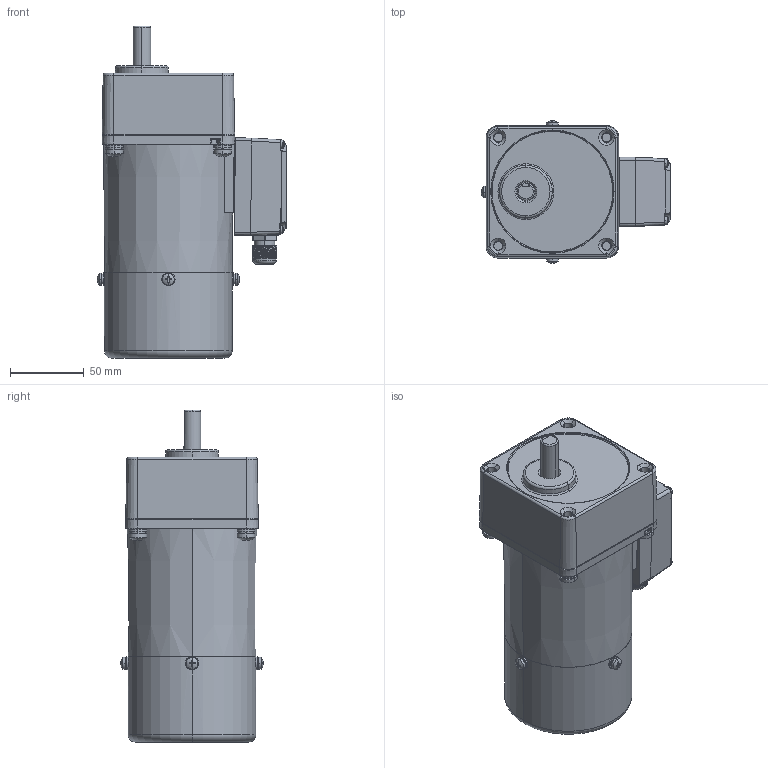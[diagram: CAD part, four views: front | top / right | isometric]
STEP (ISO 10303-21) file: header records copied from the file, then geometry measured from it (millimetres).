
FILE_DESCRIPTION (( 'STEP AP203' ), '1' );
FILE_NAME ('5RK40GN-CMT(5GN3K-18K).STEP', '2023-08-08T05:27:41', ( 'Windows User' ), ( 'P R C' ), 'SwSTEP 2.0', 'SolidWorks 2019', '' );
FILE_SCHEMA (( 'CONFIG_CONTROL_DESIGN' ));
Length unit declared in the file: millimetre
Products named in the file (11): ^70TSJXHG__5RK40GN-CMT(5GN3K-18K)(2)_5RK40GN-CMT(5GN3K-18K); ^_70TSJXHG__5RK40GN-CMT(5GN3K-18K)(2)_5RK40GN-CMT(5GN3K-18K); 5RK40GN-CMT(5GN3K-18K); 葩璃 (3) ^_70TSJXHG__5RK40GN-CMT(5GN3K-18K)(2)_5RK40GN-CMT(5GN3K-18K); 70TSJXHG^_5RK40GN-CMT(5GN3K-18K)(2)_5RK40GN-CMT(5GN3K-18K); 5GN3K-18K^5RK40GN-CMT(5GN3K-18K)(2)_5RK40GN-CMT(5GN3K-18K); ^_5RK40GN-CMT(5GN3K-18K)(2)_5RK40GN-CMT(5GN3K-18K); 5RK40GN-CMT(5GN3K-18K)(2)^5RK40GN-CMT(5GN3K-18K); ^5RK40GN-CMT(5GN3K-18K)(2)_5RK40GN-CMT(5GN3K-18K); 葩璃 (2) ^_5RK40GN-CMT(5GN3K-18K)(2)_5RK40GN-CMT(5GN3K-18K); 葩璃 (2) ^_70TSJXHG__5RK40GN-CMT(5GN3K-18K)(2)_5RK40GN-CMT(5GN3K-18K)
Assembly tree (13 placements, depth 6):
  5RK40GN-CMT(5GN3K-18K)
    5RK40GN-CMT(5GN3K-18K)(2)^5RK40GN-CMT(5GN3K-18K)
      ^5RK40GN-CMT(5GN3K-18K)(2)_5RK40GN-CMT(5GN3K-18K)
        70TSJXHG^_5RK40GN-CMT(5GN3K-18K)(2)_5RK40GN-CMT(5GN3K-18K)
          ^70TSJXHG__5RK40GN-CMT(5GN3K-18K)(2)_5RK40GN-CMT(5GN3K-18K)
            ^_70TSJXHG__5RK40GN-CMT(5GN3K-18K)(2)_5RK40GN-CMT(5GN3K-18K)
            葩璃 (2) ^_70TSJXHG__5RK40GN-CMT(5GN3K-18K)(2)_5RK40GN-CMT(5GN3K-18K)
            葩璃 (3) ^_70TSJXHG__5RK40GN-CMT(5GN3K-18K)(2)_5RK40GN-CMT(5GN3K-18K)  x4
        ^_5RK40GN-CMT(5GN3K-18K)(2)_5RK40GN-CMT(5GN3K-18K)
        葩璃 (2) ^_5RK40GN-CMT(5GN3K-18K)(2)_5RK40GN-CMT(5GN3K-18K)
      5GN3K-18K^5RK40GN-CMT(5GN3K-18K)(2)_5RK40GN-CMT(5GN3K-18K)
Bounding box: 128.79 x 96.71 x 225.5 mm (x, y, z)
Volume: 1094297.1 mm3; surface area: 163066.7 mm2
Topology: 51 solids, 51 shells, 1846 faces, 4731 edges, 3005 vertices
Faces by surface type: cylinder 686, plane 572, cone 370, sphere 100, torus 98, bspline 20
Entity records: 51724 total; most frequent: CARTESIAN_POINT 14653, DIRECTION 7911, ORIENTED_EDGE 7398, EDGE_CURVE 3699, AXIS2_PLACEMENT_3D 3244, VERTEX_POINT 2389, CIRCLE 1785, EDGE_LOOP 1564
